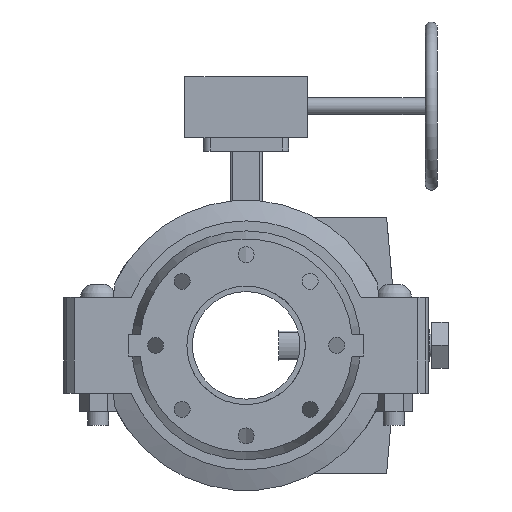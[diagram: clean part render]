
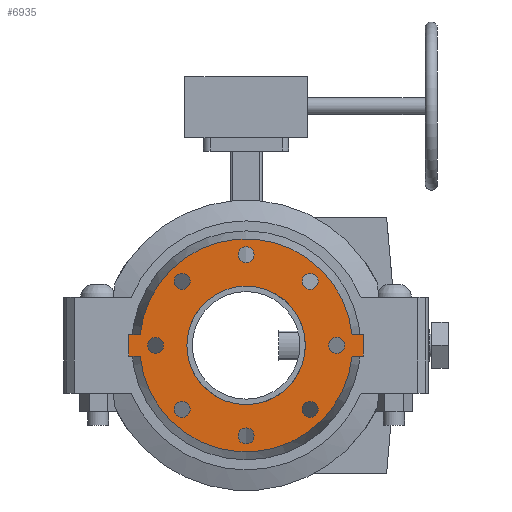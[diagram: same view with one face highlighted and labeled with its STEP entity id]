
A CAD part, front view. The second image highlights one B-rep face of the part: STEP entity #6935.
In plain terms, the highlighted planar face has unit normal (0, -1, 0) as drawn and (0, 0, -1) by its records, which use the part's own axes.
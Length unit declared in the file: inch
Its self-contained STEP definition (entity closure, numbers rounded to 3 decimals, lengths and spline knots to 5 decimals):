
#199=FACE_BOUND('',#923,.T.);
#200=FACE_BOUND('',#924,.T.);
#201=FACE_BOUND('',#925,.T.);
#202=FACE_BOUND('',#926,.T.);
#203=FACE_BOUND('',#927,.T.);
#204=FACE_BOUND('',#928,.T.);
#205=FACE_BOUND('',#929,.T.);
#206=FACE_BOUND('',#930,.T.);
#207=FACE_BOUND('',#931,.T.);
#294=PLANE('',#7547);
#538=FACE_OUTER_BOUND('',#922,.T.);
#922=EDGE_LOOP('',(#4489,#4490,#4491,#4492,#4493,#4494,#4495,#4496));
#923=EDGE_LOOP('',(#4497));
#924=EDGE_LOOP('',(#4498));
#925=EDGE_LOOP('',(#4499));
#926=EDGE_LOOP('',(#4500));
#927=EDGE_LOOP('',(#4501));
#928=EDGE_LOOP('',(#4502));
#929=EDGE_LOOP('',(#4503));
#930=EDGE_LOOP('',(#4504));
#931=EDGE_LOOP('',(#4505,#4506));
#1401=LINE('',#10559,#1912);
#1402=LINE('',#10561,#1913);
#1403=LINE('',#10563,#1914);
#1404=LINE('',#10567,#1915);
#1405=LINE('',#10569,#1916);
#1406=LINE('',#10570,#1917);
#1912=VECTOR('',#8409,0.3937);
#1913=VECTOR('',#8410,0.3937);
#1914=VECTOR('',#8411,0.3937);
#1915=VECTOR('',#8414,0.3937);
#1916=VECTOR('',#8415,0.3937);
#1917=VECTOR('',#8416,0.3937);
#2416=CIRCLE('',#7525,0.375);
#2418=CIRCLE('',#7528,0.375);
#2420=CIRCLE('',#7531,0.375);
#2422=CIRCLE('',#7534,0.375);
#2424=CIRCLE('',#7537,0.375);
#2426=CIRCLE('',#7540,0.375);
#2428=CIRCLE('',#7543,0.375);
#2430=CIRCLE('',#7546,0.375);
#2431=CIRCLE('',#7548,5.);
#2432=CIRCLE('',#7549,5.);
#2433=CIRCLE('',#7550,2.7815);
#2434=CIRCLE('',#7551,2.7815);
#2815=VERTEX_POINT('',#10509);
#2817=VERTEX_POINT('',#10515);
#2819=VERTEX_POINT('',#10521);
#2821=VERTEX_POINT('',#10527);
#2823=VERTEX_POINT('',#10533);
#2825=VERTEX_POINT('',#10539);
#2827=VERTEX_POINT('',#10545);
#2829=VERTEX_POINT('',#10551);
#2830=VERTEX_POINT('',#10555);
#2831=VERTEX_POINT('',#10556);
#2832=VERTEX_POINT('',#10558);
#2833=VERTEX_POINT('',#10560);
#2834=VERTEX_POINT('',#10562);
#2835=VERTEX_POINT('',#10564);
#2836=VERTEX_POINT('',#10566);
#2837=VERTEX_POINT('',#10568);
#2838=VERTEX_POINT('',#10571);
#2839=VERTEX_POINT('',#10572);
#3483=EDGE_CURVE('',#2815,#2815,#2416,.T.);
#3486=EDGE_CURVE('',#2817,#2817,#2418,.T.);
#3489=EDGE_CURVE('',#2819,#2819,#2420,.T.);
#3492=EDGE_CURVE('',#2821,#2821,#2422,.T.);
#3495=EDGE_CURVE('',#2823,#2823,#2424,.T.);
#3498=EDGE_CURVE('',#2825,#2825,#2426,.T.);
#3501=EDGE_CURVE('',#2827,#2827,#2428,.T.);
#3504=EDGE_CURVE('',#2829,#2829,#2430,.T.);
#3505=EDGE_CURVE('',#2830,#2831,#2431,.T.);
#3506=EDGE_CURVE('',#2831,#2832,#1401,.T.);
#3507=EDGE_CURVE('',#2832,#2833,#1402,.T.);
#3508=EDGE_CURVE('',#2833,#2834,#1403,.T.);
#3509=EDGE_CURVE('',#2834,#2835,#2432,.T.);
#3510=EDGE_CURVE('',#2835,#2836,#1404,.T.);
#3511=EDGE_CURVE('',#2836,#2837,#1405,.T.);
#3512=EDGE_CURVE('',#2837,#2830,#1406,.T.);
#3513=EDGE_CURVE('',#2838,#2839,#2433,.T.);
#3514=EDGE_CURVE('',#2839,#2838,#2434,.T.);
#4489=ORIENTED_EDGE('',*,*,#3505,.T.);
#4490=ORIENTED_EDGE('',*,*,#3506,.T.);
#4491=ORIENTED_EDGE('',*,*,#3507,.T.);
#4492=ORIENTED_EDGE('',*,*,#3508,.T.);
#4493=ORIENTED_EDGE('',*,*,#3509,.T.);
#4494=ORIENTED_EDGE('',*,*,#3510,.T.);
#4495=ORIENTED_EDGE('',*,*,#3511,.T.);
#4496=ORIENTED_EDGE('',*,*,#3512,.T.);
#4497=ORIENTED_EDGE('',*,*,#3483,.T.);
#4498=ORIENTED_EDGE('',*,*,#3486,.T.);
#4499=ORIENTED_EDGE('',*,*,#3489,.T.);
#4500=ORIENTED_EDGE('',*,*,#3492,.T.);
#4501=ORIENTED_EDGE('',*,*,#3495,.T.);
#4502=ORIENTED_EDGE('',*,*,#3498,.T.);
#4503=ORIENTED_EDGE('',*,*,#3501,.T.);
#4504=ORIENTED_EDGE('',*,*,#3504,.T.);
#4505=ORIENTED_EDGE('',*,*,#3513,.T.);
#4506=ORIENTED_EDGE('',*,*,#3514,.T.);
#6935=ADVANCED_FACE('',(#538,#199,#200,#201,#202,#203,#204,#205,#206,#207),
#294,.T.);
#7525=AXIS2_PLACEMENT_3D('',#10511,#8354,#8355);
#7528=AXIS2_PLACEMENT_3D('',#10517,#8361,#8362);
#7531=AXIS2_PLACEMENT_3D('',#10523,#8368,#8369);
#7534=AXIS2_PLACEMENT_3D('',#10529,#8375,#8376);
#7537=AXIS2_PLACEMENT_3D('',#10535,#8382,#8383);
#7540=AXIS2_PLACEMENT_3D('',#10541,#8389,#8390);
#7543=AXIS2_PLACEMENT_3D('',#10547,#8396,#8397);
#7546=AXIS2_PLACEMENT_3D('',#10553,#8403,#8404);
#7547=AXIS2_PLACEMENT_3D('',#10554,#8405,#8406);
#7548=AXIS2_PLACEMENT_3D('',#10557,#8407,#8408);
#7549=AXIS2_PLACEMENT_3D('',#10565,#8412,#8413);
#7550=AXIS2_PLACEMENT_3D('',#10573,#8417,#8418);
#7551=AXIS2_PLACEMENT_3D('',#10574,#8419,#8420);
#8354=DIRECTION('center_axis',(0.,0.,1.));
#8355=DIRECTION('ref_axis',(-0.707,0.707,0.));
#8361=DIRECTION('center_axis',(0.,0.,1.));
#8362=DIRECTION('ref_axis',(0.,1.,0.));
#8368=DIRECTION('center_axis',(0.,0.,1.));
#8369=DIRECTION('ref_axis',(0.707,0.707,0.));
#8375=DIRECTION('center_axis',(0.,0.,1.));
#8376=DIRECTION('ref_axis',(1.,0.,0.));
#8382=DIRECTION('center_axis',(0.,0.,1.));
#8383=DIRECTION('ref_axis',(0.707,-0.707,0.));
#8389=DIRECTION('center_axis',(0.,0.,1.));
#8390=DIRECTION('ref_axis',(0.,-1.,0.));
#8396=DIRECTION('center_axis',(0.,0.,1.));
#8397=DIRECTION('ref_axis',(-0.707,-0.707,0.));
#8403=DIRECTION('center_axis',(0.,0.,1.));
#8404=DIRECTION('ref_axis',(-1.,0.,0.));
#8405=DIRECTION('center_axis',(0.,0.,-1.));
#8406=DIRECTION('ref_axis',(-1.,0.,0.));
#8407=DIRECTION('center_axis',(0.,0.,-1.));
#8408=DIRECTION('ref_axis',(-1.,0.,0.));
#8409=DIRECTION('',(0.,1.,0.));
#8410=DIRECTION('',(1.,0.,0.));
#8411=DIRECTION('',(0.,-1.,0.));
#8412=DIRECTION('center_axis',(0.,0.,-1.));
#8413=DIRECTION('ref_axis',(-1.,0.,0.));
#8414=DIRECTION('',(0.,-1.,0.));
#8415=DIRECTION('',(-1.,0.,0.));
#8416=DIRECTION('',(0.,1.,0.));
#8417=DIRECTION('center_axis',(0.,0.,1.));
#8418=DIRECTION('ref_axis',(-1.,0.,0.));
#8419=DIRECTION('center_axis',(0.,0.,1.));
#8420=DIRECTION('ref_axis',(-1.,0.,0.));
#10509=CARTESIAN_POINT('',(-2.74004,2.74004,-0.5));
#10511=CARTESIAN_POINT('Origin',(-3.0052,3.0052,-0.5));
#10515=CARTESIAN_POINT('',(0.,3.875,-0.5));
#10517=CARTESIAN_POINT('Origin',(0.,4.25,-0.5));
#10521=CARTESIAN_POINT('',(2.74004,2.74004,-0.5));
#10523=CARTESIAN_POINT('Origin',(3.0052,3.0052,-0.5));
#10527=CARTESIAN_POINT('',(3.875,0.,-0.5));
#10529=CARTESIAN_POINT('Origin',(4.25,0.,-0.5));
#10533=CARTESIAN_POINT('',(2.74004,-2.74004,-0.5));
#10535=CARTESIAN_POINT('Origin',(3.0052,-3.0052,-0.5));
#10539=CARTESIAN_POINT('',(0.,-3.875,-0.5));
#10541=CARTESIAN_POINT('Origin',(0.,-4.25,-0.5));
#10545=CARTESIAN_POINT('',(-2.74004,-2.74004,-0.5));
#10547=CARTESIAN_POINT('Origin',(-3.0052,-3.0052,-0.5));
#10551=CARTESIAN_POINT('',(-3.875,0.,-0.5));
#10553=CARTESIAN_POINT('Origin',(-4.25,0.,-0.5));
#10554=CARTESIAN_POINT('Origin',(0.,0.,-0.5));
#10555=CARTESIAN_POINT('',(-0.5,-4.97494,-0.5));
#10556=CARTESIAN_POINT('',(-0.5,4.97494,-0.5));
#10557=CARTESIAN_POINT('Origin',(0.,0.,-0.5));
#10558=CARTESIAN_POINT('',(-0.5,5.5,-0.5));
#10559=CARTESIAN_POINT('',(-0.5,-5.5,-0.5));
#10560=CARTESIAN_POINT('',(0.5,5.5,-0.5));
#10561=CARTESIAN_POINT('',(-0.5,5.5,-0.5));
#10562=CARTESIAN_POINT('',(0.5,4.97494,-0.5));
#10563=CARTESIAN_POINT('',(0.5,5.5,-0.5));
#10564=CARTESIAN_POINT('',(0.5,-4.97494,-0.5));
#10565=CARTESIAN_POINT('Origin',(0.,0.,-0.5));
#10566=CARTESIAN_POINT('',(0.5,-5.5,-0.5));
#10567=CARTESIAN_POINT('',(0.5,5.5,-0.5));
#10568=CARTESIAN_POINT('',(-0.5,-5.5,-0.5));
#10569=CARTESIAN_POINT('',(0.5,-5.5,-0.5));
#10570=CARTESIAN_POINT('',(-0.5,-5.5,-0.5));
#10571=CARTESIAN_POINT('',(0.5,2.73619,-0.5));
#10572=CARTESIAN_POINT('',(2.7815,0.,-0.5));
#10573=CARTESIAN_POINT('Origin',(0.,0.,-0.5));
#10574=CARTESIAN_POINT('Origin',(0.,0.,-0.5));
